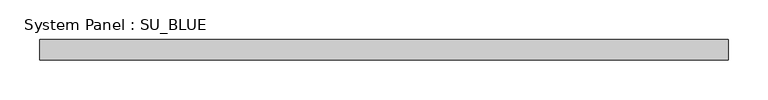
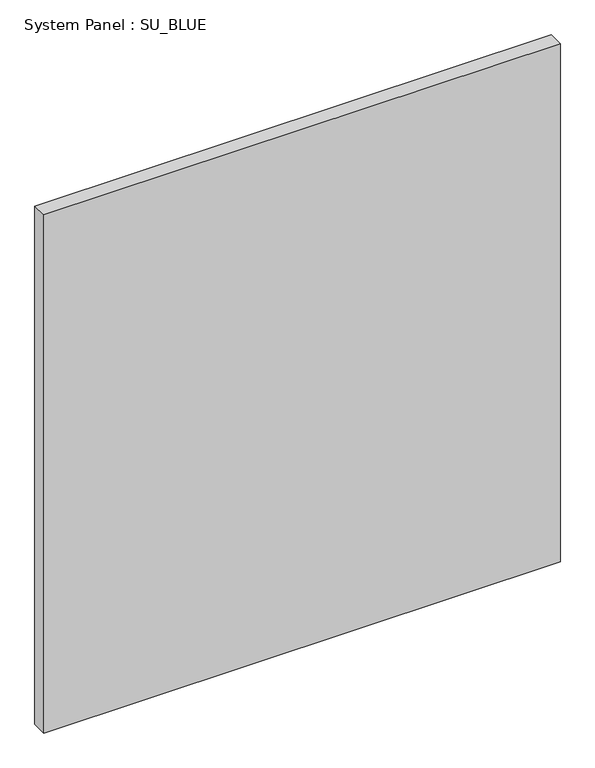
"""IFC4 building model written with IfcOpenShell, lengths in millimetres: plate geometry, System Panel : SU_BLUE."""

from ifc_helpers import new_model, si_unit, origin, origin_with_axes, place, context, project, spatial, polyline, outline, extrude, source, transform, mapped, element, save


def system_panel_su_blue_e9da5e1a(model_context):
    return source(origin(), model_context, "Body", "SweptSolid", [
        extrude(outline(polyline([(431.2346078, 19.05), (-431.2346078, 19.05), (-431.2346078, 44.45), (431.2346078, 44.45), (431.2346078, 19.05)])), origin_with_axes(), (0.0, 0.0, 1.0), 914.4),
    ])


if __name__ == "__main__":
    model = new_model("IFC4")
    model_context = context("Model", 3, world=origin())
    ifc_project = project(units=[si_unit("LENGTHUNIT", "METRE", prefix="MILLI")], contexts=[model_context])
    site = spatial("IfcSite", under=ifc_project)
    building = spatial("IfcBuilding", under=site)
    placement = place(None, origin())
    system_panel_su_blue_shape = system_panel_su_blue_e9da5e1a(model_context)
    element("IfcPlate", 1, ObjectType="System Panel : SU_BLUE", at=placement, inside=building, context=model_context, shape_type="MappedRepresentation", body=[
        mapped(system_panel_su_blue_shape, transform((0.0, 0.0, 0.0), x_axis=(1.0, 0.0, 0.0), y_axis=(0.0, 1.0, 0.0), z_axis=(0.0, 0.0, 1.0))),
    ])
    save(model, "model.ifc")
